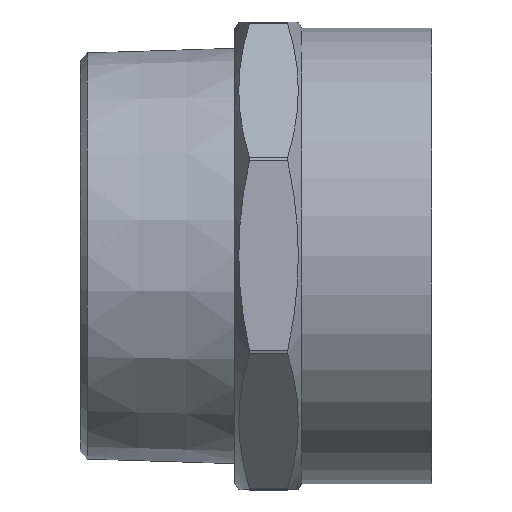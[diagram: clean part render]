
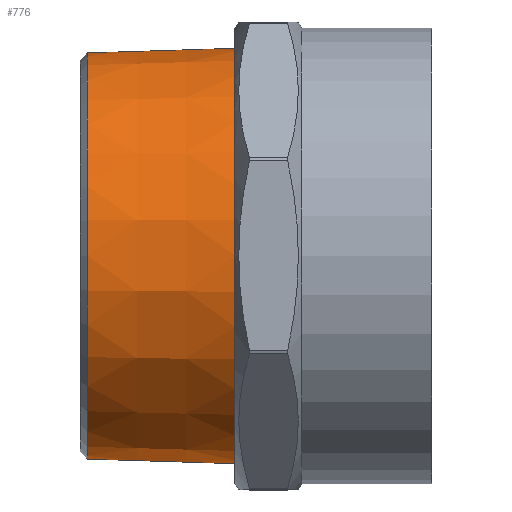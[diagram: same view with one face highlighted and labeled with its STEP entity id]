
A CAD part, top view. The second image highlights one B-rep face of the part: STEP entity #776.
In plain terms, the highlighted conical face has half-angle 1.79 degrees and reference radius 43.821 mm.
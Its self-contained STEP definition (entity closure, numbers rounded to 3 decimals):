
#725=CARTESIAN_POINT('',(1.499,43.352,0.));
#726=VERTEX_POINT('',#725);
#727=CARTESIAN_POINT('',(1.499,0.0,0.));
#728=DIRECTION('',(-1.0,0.0,0.0));
#729=DIRECTION('',(0.0,-1.0,0.0));
#730=AXIS2_PLACEMENT_3D('',#727,#728,#729);
#731=CIRCLE('',#730,43.352);
#732=EDGE_CURVE('',#726,#726,#731,.T.);
#757=CARTESIAN_POINT('',(16.5,0.0,0.0));
#758=DIRECTION('',(1.0,0.0,0.0));
#759=DIRECTION('',(0.0,1.0,0.0));
#760=AXIS2_PLACEMENT_3D('',#757,#758,#759);
#761=CONICAL_SURFACE('',#760,43.821,1.79);
#762=CARTESIAN_POINT('',(33.0,44.336,0.0));
#763=VERTEX_POINT('',#762);
#764=CARTESIAN_POINT('',(33.0,0.0,0.0));
#765=DIRECTION('',(1.0,0.0,0.0));
#766=DIRECTION('',(0.0,1.0,0.0));
#767=AXIS2_PLACEMENT_3D('',#764,#765,#766);
#768=CIRCLE('',#767,44.336);
#769=EDGE_CURVE('',#763,#763,#768,.T.);
#770=ORIENTED_EDGE('',*,*,#769,.F.);
#771=EDGE_LOOP('',(#770));
#772=FACE_OUTER_BOUND('',#771,.T.);
#773=ORIENTED_EDGE('',*,*,#732,.F.);
#774=EDGE_LOOP('',(#773));
#775=FACE_BOUND('',#774,.T.);
#776=ADVANCED_FACE('',(#772,#775),#761,.T.);
